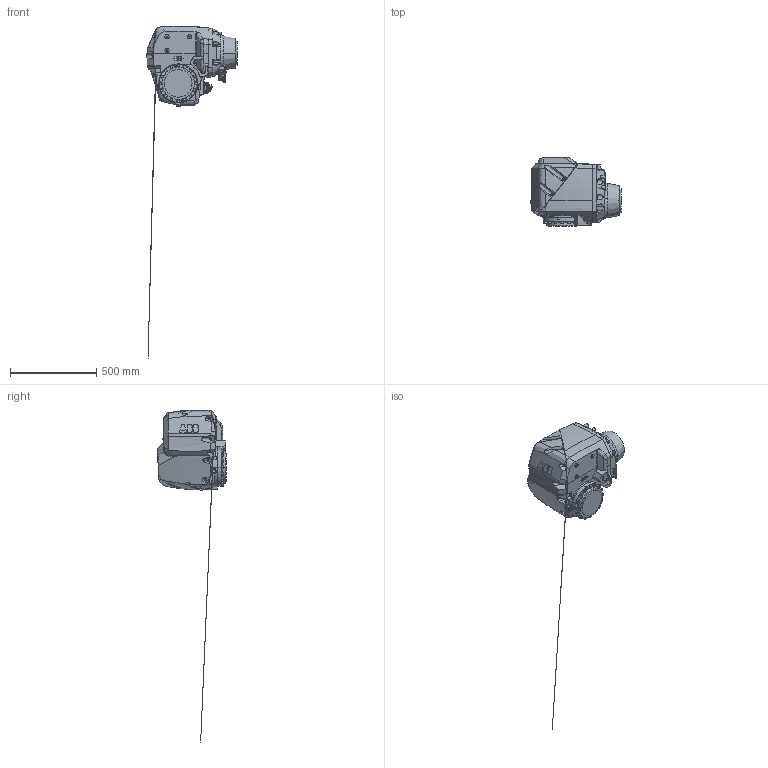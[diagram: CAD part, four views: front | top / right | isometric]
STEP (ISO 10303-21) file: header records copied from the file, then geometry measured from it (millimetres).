
FILE_DESCRIPTION (( 'STEP AP214' ), '1' );
FILE_NAME ('IRB4600_40-255_link3_CAD_03.STEP', '2012-06-19T06:27:39', ( 'ABB' ), ( 'ABB' ), 'SwSTEP 2.0', 'SolidWorks 2010', '' );
FILE_SCHEMA (( 'AUTOMOTIVE_DESIGN' ));
Length unit declared in the file: millimetre
Products named in the file (1): IRB4600_40-255_link3_CAD_03
Bounding box: 521.09 x 398.61 x 1921.97 mm (x, y, z)
Volume: 50835952.7 mm3; surface area: 952858.7 mm2
Topology: 1 solids, 1 shells, 955 faces, 2433 edges, 1542 vertices
Faces by surface type: plane 392, cylinder 260, cone 130, bspline 114, torus 52, sphere 7
Entity records: 43536 total; most frequent: CARTESIAN_POINT 21617, ORIENTED_EDGE 4792, DIRECTION 4237, EDGE_CURVE 2396, AXIS2_PLACEMENT_3D 1677, VERTEX_POINT 1542, EDGE_LOOP 1070, FACE_OUTER_BOUND 955
